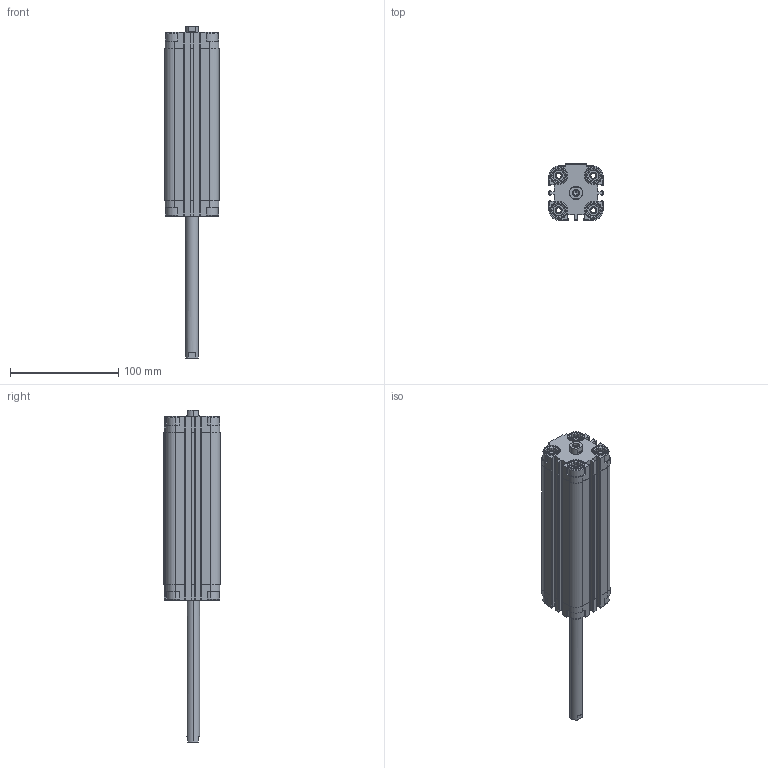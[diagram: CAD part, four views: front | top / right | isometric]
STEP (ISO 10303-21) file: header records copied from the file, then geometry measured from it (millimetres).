
FILE_DESCRIPTION (( 'STEP AP203' ), '1' );
FILE_NAME ('CDVU32-125F-P.STEP', '2020-07-24T18:13:37', ( '' ), ( '' ), 'SwSTEP 2.0', 'SolidWorks 2019', '' );
FILE_SCHEMA (( 'CONFIG_CONTROL_DESIGN' ));
Length unit declared in the file: millimetre
Products named in the file (1): CDVU32-125F-P
Bounding box: 50 x 52 x 306.5 mm (x, y, z)
Volume: 275456.8 mm3; surface area: 99271.1 mm2
Topology: 2 solids, 2 shells, 722 faces, 1928 edges, 1244 vertices
Faces by surface type: plane 422, cylinder 236, cone 64
Entity records: 22623 total; most frequent: CARTESIAN_POINT 4463, ORIENTED_EDGE 3840, DIRECTION 3710, EDGE_CURVE 1920, AXIS2_PLACEMENT_3D 1259, VERTEX_POINT 1244, LINE 1192, VECTOR 1192
